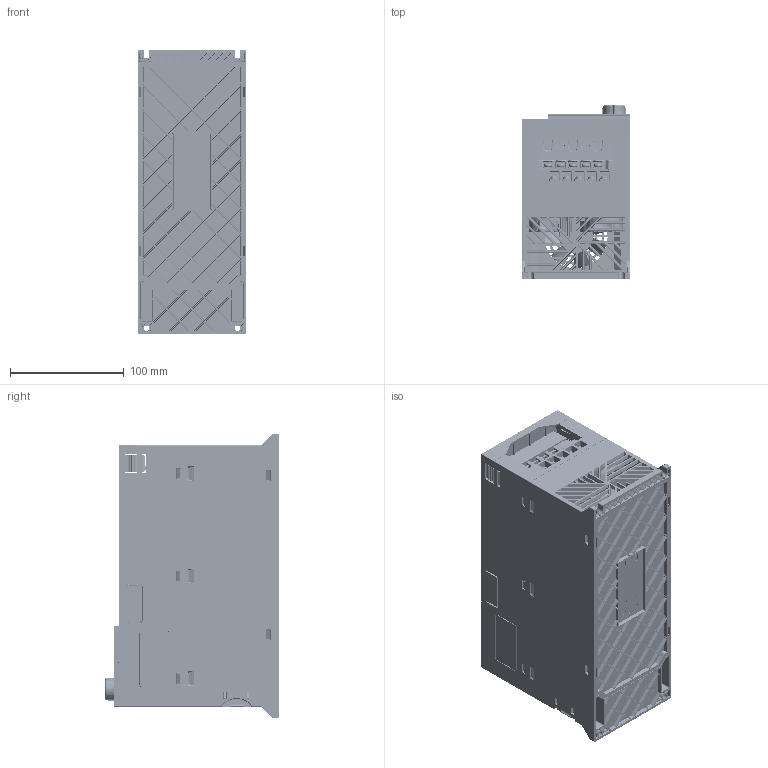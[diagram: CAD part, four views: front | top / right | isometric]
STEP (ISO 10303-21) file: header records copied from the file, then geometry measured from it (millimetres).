
FILE_DESCRIPTION((''),'2;1');
FILE_NAME('00-A002_ASM','2025-03-12T17:42:24',('A003968'),(''),'CREO PARAMETRIC BY PTC INC, 2020074','CREO PARAMETRIC BY PTC INC, 2020074','');
FILE_SCHEMA(('CONFIG_CONTROL_DESIGN','SHAPE_APPEARANCE_LAYERS_GROUPS'));
Products named in the file (26): A002-12-01; A002-12-02; A002-12-03; A002-12-04; A002-12-05; A002-12-06; A002-10-01_ASM; BA5-05-11_0-18; MC20-PS02G4TDG_ASM; A002-PCB_ASM; FAN-6025; _0003; 000; 0004_ASM; A002-QJ_ASM; A001-12-07; A001-12-08; A001-12-06; A001-18-01; A001-18-03; GBT845-2017_F_ST2_2X6_5; A001-JP_ASM; A001-18-02; A002-FL_ASM; 00-A002_ASM
Assembly tree (27 placements, depth 4):
  00-A002_ASM
    A002-10-01_ASM
      A002-12-01
      A002-12-02
      A002-12-03
      A002-12-04
      A002-12-05
      A002-12-06  x2
    A002-PCB_ASM
      MC20-PS02G4TDG_ASM
        BA5-05-11_0-18
    A002-QJ_ASM
      0004_ASM
        FAN-6025
        _0003
        000
    A001-JP_ASM
      A001-12-07
      A001-12-08
      A001-12-06
      A001-18-01
      A001-18-03
      GBT845-2017_F_ST2_2X6_5  x2
    A002-FL_ASM
      A001-18-02
      000
Bounding box: 95 x 153.6 x 250 mm (x, y, z)
Volume: 492999.8 mm3; surface area: 501484 mm2
Topology: 19 solids, 35 shells, 13510 faces, 38255 edges, 25554 vertices
Faces by surface type: plane 10593, cylinder 1262, cone 697, extrusion 511, bspline 242, torus 176, sphere 29
Entity records: 544779 total; most frequent: CARTESIAN_POINT 102050, ORIENTED_EDGE 72124, DIRECTION 61343, EDGE_CURVE 36080, PRESENTATION_STYLE_ASSIGNMENT 35335, STYLED_ITEM 35031, CURVE_STYLE 34615, VECTOR 30121
